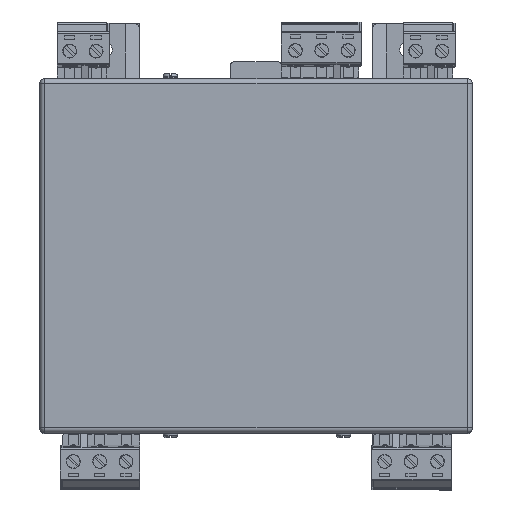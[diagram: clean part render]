
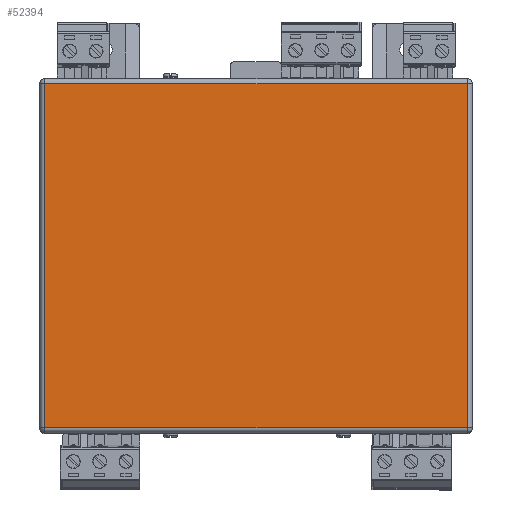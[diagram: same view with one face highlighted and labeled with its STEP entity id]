
A CAD part, top view. The second image highlights one B-rep face of the part: STEP entity #52394.
In plain terms, the highlighted planar face has unit normal (0, 0, 1).
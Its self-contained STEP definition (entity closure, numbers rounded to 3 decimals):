
#2889=FACE_OUTER_BOUND('',#5699,.T.);
#5699=EDGE_LOOP('',(#36522,#36523,#36524,#36525));
#9200=LINE('',#75572,#15810);
#9201=LINE('',#75584,#15811);
#9264=LINE('',#75721,#15874);
#9265=LINE('',#75722,#15875);
#15810=VECTOR('',#61043,1.);
#15811=VECTOR('',#61064,1.);
#15874=VECTOR('',#61231,1.);
#15875=VECTOR('',#61232,1.);
#22312=VERTEX_POINT('',#75569);
#22313=VERTEX_POINT('',#75571);
#22314=VERTEX_POINT('',#75582);
#22336=VERTEX_POINT('',#75720);
#27742=EDGE_CURVE('',#22312,#22313,#9200,.T.);
#27750=EDGE_CURVE('',#22314,#22312,#9201,.T.);
#27818=EDGE_CURVE('',#22313,#22336,#9264,.T.);
#27819=EDGE_CURVE('',#22314,#22336,#9265,.T.);
#36522=ORIENTED_EDGE('',*,*,#27818,.F.);
#36523=ORIENTED_EDGE('',*,*,#27742,.F.);
#36524=ORIENTED_EDGE('',*,*,#27750,.F.);
#36525=ORIENTED_EDGE('',*,*,#27819,.T.);
#50044=PLANE('',#55840);
#52394=ADVANCED_FACE('',(#2889),#50044,.T.);
#55840=AXIS2_PLACEMENT_3D('',#75719,#61229,#61230);
#61043=DIRECTION('',(-1.,0.,0.));
#61064=DIRECTION('',(0.,-1.,0.));
#61229=DIRECTION('center_axis',(0.,0.,1.));
#61230=DIRECTION('ref_axis',(1.,0.,0.));
#61231=DIRECTION('',(0.,1.,0.));
#61232=DIRECTION('',(-1.,0.,0.));
#75569=CARTESIAN_POINT('',(84.82,-31.787,124.5));
#75571=CARTESIAN_POINT('',(-37.18,-31.787,124.5));
#75572=CARTESIAN_POINT('',(-131.809,-31.787,124.5));
#75582=CARTESIAN_POINT('',(84.82,67.713,124.5));
#75584=CARTESIAN_POINT('',(84.82,-156.3,124.5));
#75719=CARTESIAN_POINT('Origin',(-131.809,-156.3,124.5));
#75720=CARTESIAN_POINT('',(-37.18,67.713,124.5));
#75721=CARTESIAN_POINT('',(-37.18,-156.3,124.5));
#75722=CARTESIAN_POINT('',(-131.809,67.713,124.5));
